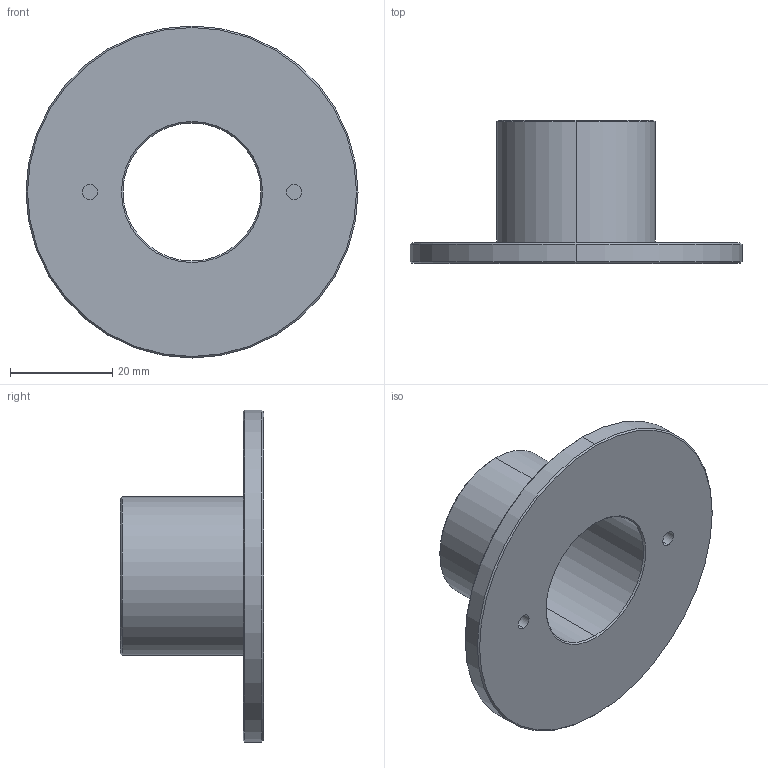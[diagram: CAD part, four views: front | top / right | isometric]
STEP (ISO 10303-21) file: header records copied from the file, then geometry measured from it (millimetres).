
FILE_DESCRIPTION (( 'STEP AP214' ), '1' );
FILE_NAME ('錨璃4.STEP', '2026-10-13T01:16:01', ( '' ), ( '' ), 'SwSTEP 2.0', 'SolidWorks 2024', '' );
FILE_SCHEMA (( 'AUTOMOTIVE_DESIGN' ));
Length unit declared in the file: millimetre
Products named in the file (1): 零件4
Bounding box: 65 x 28 x 65 mm (x, y, z)
Volume: 14787.1 mm3; surface area: 11620.1 mm2
Topology: 1 solids, 1 shells, 31 faces, 62 edges, 38 vertices
Faces by surface type: cylinder 14, cone 10, plane 7
Entity records: 841 total; most frequent: DIRECTION 164, CARTESIAN_POINT 132, ORIENTED_EDGE 124, AXIS2_PLACEMENT_3D 70, EDGE_CURVE 62, EDGE_LOOP 38, CIRCLE 38, VERTEX_POINT 38
